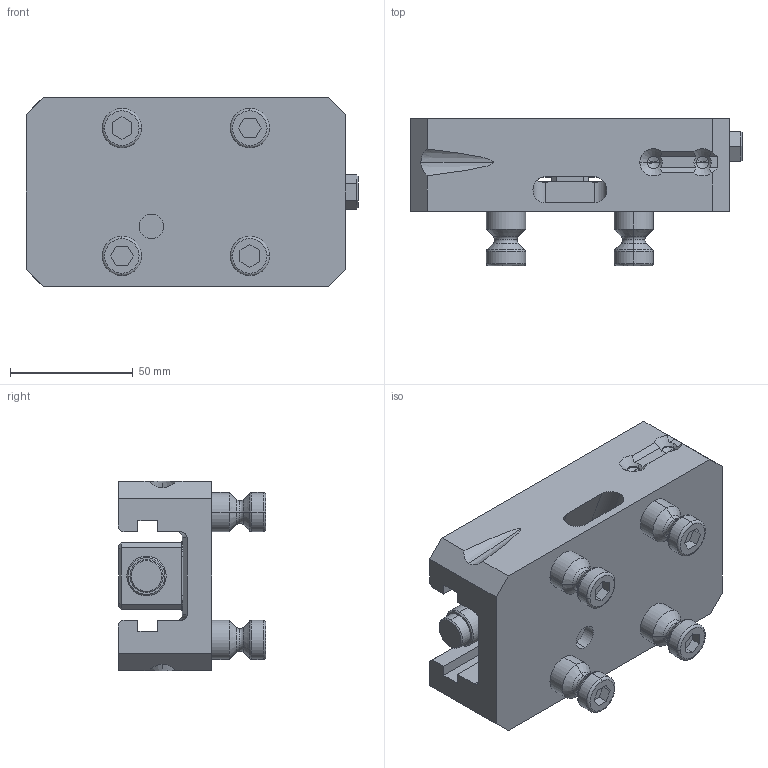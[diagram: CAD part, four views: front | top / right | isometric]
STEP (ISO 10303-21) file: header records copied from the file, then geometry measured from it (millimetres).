
FILE_DESCRIPTION (( 'STEP AP214' ), '1' );
FILE_NAME ('40120-77.STEP', '2024-12-11T08:26:57', ( '' ), ( '' ), 'SwSTEP 2.0', 'SolidWorks 2021', '' );
FILE_SCHEMA (( 'AUTOMOTIVE_DESIGN' ));
Length unit declared in the file: millimetre
Products named in the file (1): 40120-77
Bounding box: 135 x 60 x 77 mm (x, y, z)
Volume: 271887.6 mm3; surface area: 64135.5 mm2
Topology: 6 solids, 6 shells, 319 faces, 768 edges, 466 vertices
Faces by surface type: plane 153, cylinder 76, cone 58, torus 32
Entity records: 12808 total; most frequent: CARTESIAN_POINT 1838, DIRECTION 1570, ORIENTED_EDGE 1504, EDGE_CURVE 752, AXIS2_PLACEMENT_3D 550, LINE 470, VECTOR 470, VERTEX_POINT 466
